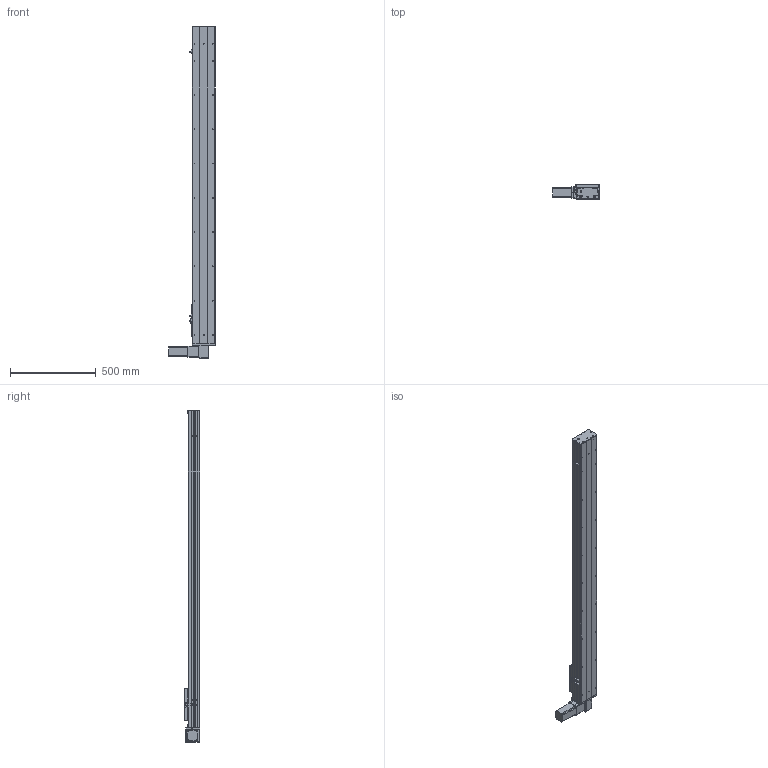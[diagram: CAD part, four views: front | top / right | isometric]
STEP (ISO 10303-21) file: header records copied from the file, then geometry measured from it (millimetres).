
FILE_DESCRIPTION (( 'STEP AP203' ), '1' );
FILE_NAME ('Y135CB-D90-S1550-BD-P400W.STEP', '2020-02-19T03:45:33', ( '微软用户' ), ( '微软中国' ), 'SwSTEP 2.0', 'SolidWorks 2017', '' );
FILE_SCHEMA (( 'CONFIG_CONTROL_DESIGN' ));
Length unit declared in the file: millimetre
Products named in the file (16): 0B-薊粣ん眊; 5CB --掛极耜裔啣-; Y135CB-D90-S1550-BD-P400W; C-詩湍揤踡え-陔; 135CB--詩湍-CE; Y135CB-耜裔; Y100-135俋离換覜ん--; 135CB---遴掛极.-; Y135C-陔俋离換覜結え-; 35CB---喘謫眊楊擘啣; 5C--俋欶; 0B-埴倛裔啣; C-雄赽釱--; 0B-源倛裔啣; Y10B--々湍喘謫眊--666; san松下电机400不带刹车----
Assembly tree (19 placements, depth 2):
  Y135CB-D90-S1550-BD-P400W
    Y135CB-耜裔
    135CB---遴掛极.-
    35CB---喘謫眊楊擘啣
    0B-埴倛裔啣
    0B-源倛裔啣
    san松下电机400不带刹车----
    5CB --掛极耜裔啣-  x2
    C-詩湍揤踡え-陔  x2
    135CB--詩湍-CE
    Y100-135俋离換覜ん--  x3
    Y135C-陔俋离換覜結え-
    5C--俋欶
    C-雄赽釱--
    Y10B--々湍喘謫眊--666
    0B-薊粣ん眊
Bounding box: 272 x 91 x 1938 mm (x, y, z)
Volume: 5815036.6 mm3; surface area: 2245910.6 mm2
Topology: 19 solids, 19 shells, 867 faces, 2320 edges, 1536 vertices
Faces by surface type: cylinder 436, plane 415, cone 16
Entity records: 26612 total; most frequent: DIRECTION 4436, CARTESIAN_POINT 4379, ORIENTED_EDGE 4116, EDGE_CURVE 2058, AXIS2_PLACEMENT_3D 1629, VERTEX_POINT 1364, LINE 1178, VECTOR 1178
